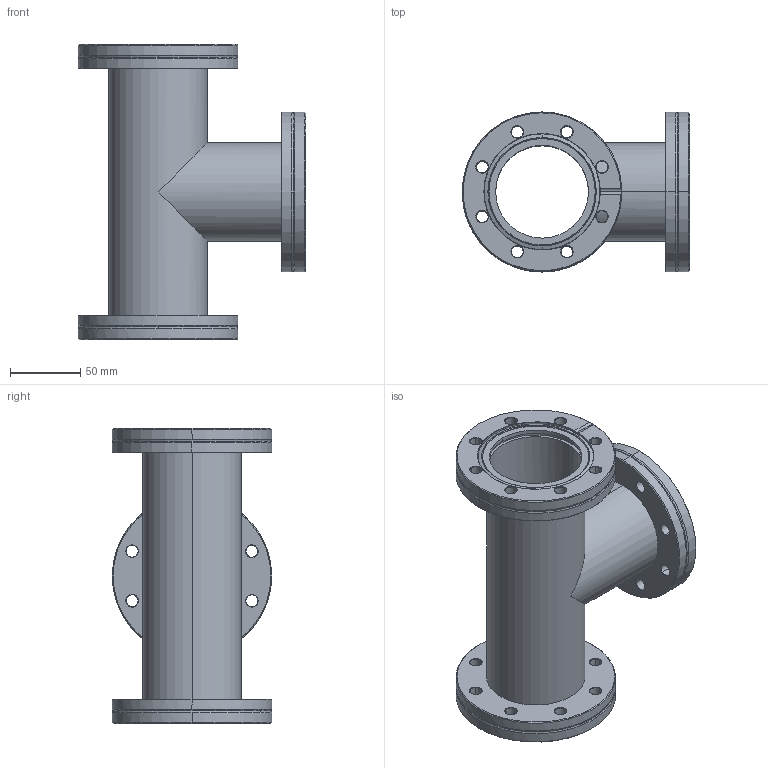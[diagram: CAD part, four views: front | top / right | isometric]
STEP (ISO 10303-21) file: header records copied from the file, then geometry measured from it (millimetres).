
FILE_DESCRIPTION((''),'2;1');
FILE_NAME('N:\Transfer\Berger Martin\Leybold\C15\83616.stp','2005-02-07T08:49:48',('VCRC_L'),(''),'Autodesk Inventor 9','Autodesk Inventor 9','');
FILE_SCHEMA(('AUTOMOTIVE_DESIGN { 1 0 10303 214 1 1 1 1 }'));
Length unit declared in the file: millimetre
Products named in the file (1): 83616
Bounding box: 161.75 x 113.5 x 210 mm (x, y, z)
Volume: 407269.1 mm3; surface area: 196219.1 mm2
Topology: 1 solids, 1 shells, 302 faces, 723 edges, 438 vertices
Faces by surface type: cone 138, bspline 68, cylinder 56, plane 22, torus 18
Entity records: 10524 total; most frequent: CARTESIAN_POINT 3356, DIRECTION 1611, ORIENTED_EDGE 1446, EDGE_CURVE 723, AXIS2_PLACEMENT_3D 685, CIRCLE 442, VERTEX_POINT 438, EDGE_LOOP 369
